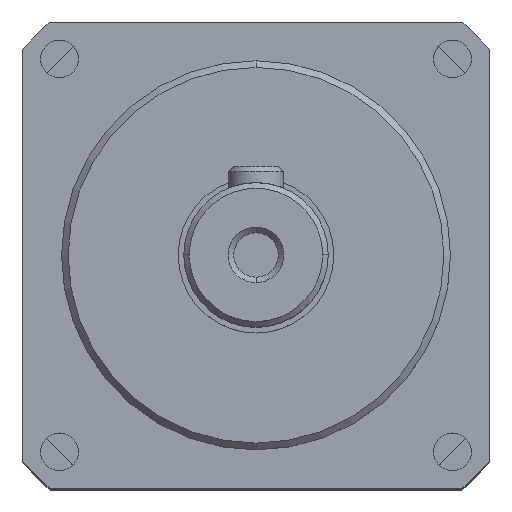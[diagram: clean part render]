
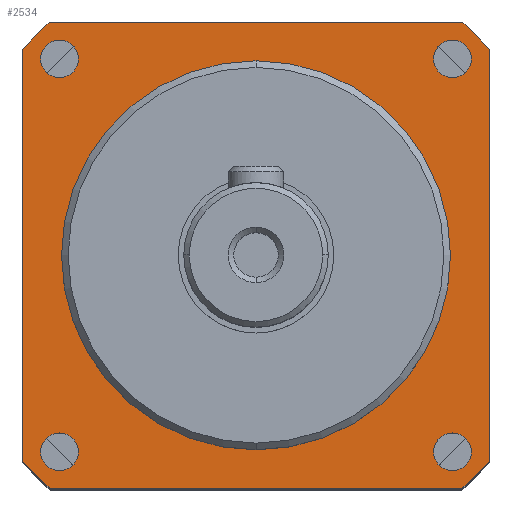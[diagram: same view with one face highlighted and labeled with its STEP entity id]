
A CAD part, top view. The second image highlights one B-rep face of the part: STEP entity #2534.
In plain terms, the highlighted planar face has unit normal (0, 0, 1).
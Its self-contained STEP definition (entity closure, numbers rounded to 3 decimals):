
#1683=CARTESIAN_POINT('',(0.,0.,5.5));
#1684=DIRECTION('',(0.,0.,-1.));
#1685=DIRECTION('',(0.,-1.,0.));
#1686=AXIS2_PLACEMENT_3D('',#1683,#1684,#1685);
#1688=CARTESIAN_POINT('',(0.,0.,5.5));
#1689=DIRECTION('',(0.,0.,-1.));
#1690=DIRECTION('',(0.,1.,0.));
#1691=AXIS2_PLACEMENT_3D('',#1688,#1689,#1690);
#1693=CARTESIAN_POINT('',(-17.678,17.678,5.5));
#1694=DIRECTION('',(0.,0.,1.));
#1695=DIRECTION('',(0.,1.,0.));
#1696=AXIS2_PLACEMENT_3D('',#1693,#1694,#1695);
#1698=CARTESIAN_POINT('',(-17.678,17.678,5.5));
#1699=DIRECTION('',(0.,0.,1.));
#1700=DIRECTION('',(0.,-1.,0.));
#1701=AXIS2_PLACEMENT_3D('',#1698,#1699,#1700);
#1703=CARTESIAN_POINT('',(-17.678,-17.678,5.5));
#1704=DIRECTION('',(0.,0.,1.));
#1705=DIRECTION('',(0.,1.,0.));
#1706=AXIS2_PLACEMENT_3D('',#1703,#1704,#1705);
#1708=CARTESIAN_POINT('',(-17.678,-17.678,5.5));
#1709=DIRECTION('',(0.,0.,1.));
#1710=DIRECTION('',(0.,-1.,0.));
#1711=AXIS2_PLACEMENT_3D('',#1708,#1709,#1710);
#1713=CARTESIAN_POINT('',(17.678,-17.678,5.5));
#1714=DIRECTION('',(0.,0.,1.));
#1715=DIRECTION('',(0.,1.,0.));
#1716=AXIS2_PLACEMENT_3D('',#1713,#1714,#1715);
#1718=CARTESIAN_POINT('',(17.678,-17.678,5.5));
#1719=DIRECTION('',(0.,0.,1.));
#1720=DIRECTION('',(0.,-1.,0.));
#1721=AXIS2_PLACEMENT_3D('',#1718,#1719,#1720);
#1723=CARTESIAN_POINT('',(17.678,17.678,5.5));
#1724=DIRECTION('',(0.,0.,1.));
#1725=DIRECTION('',(0.,1.,0.));
#1726=AXIS2_PLACEMENT_3D('',#1723,#1724,#1725);
#1728=CARTESIAN_POINT('',(17.678,17.678,5.5));
#1729=DIRECTION('',(0.,0.,1.));
#1730=DIRECTION('',(0.,-1.,0.));
#1731=AXIS2_PLACEMENT_3D('',#1728,#1729,#1730);
#1733=CARTESIAN_POINT('',(0.,0.,5.5));
#1734=DIRECTION('',(0.,0.,1.));
#1735=DIRECTION('',(0.661,-0.75,0.));
#1736=AXIS2_PLACEMENT_3D('',#1733,#1734,#1735);
#1738=DIRECTION('',(1.,0.,0.));
#1739=VECTOR('',#1738,37.041);
#1740=CARTESIAN_POINT('',(-18.52,-21.,5.5));
#1741=LINE('',#1740,#1739);
#1742=CARTESIAN_POINT('',(0.,0.,5.5));
#1743=DIRECTION('',(0.,0.,1.));
#1744=DIRECTION('',(-0.75,-0.661,0.));
#1745=AXIS2_PLACEMENT_3D('',#1742,#1743,#1744);
#1747=DIRECTION('',(0.,-1.,0.));
#1748=VECTOR('',#1747,37.041);
#1749=CARTESIAN_POINT('',(-21.,18.52,5.5));
#1750=LINE('',#1749,#1748);
#1751=CARTESIAN_POINT('',(0.,0.,5.5));
#1752=DIRECTION('',(0.,0.,1.));
#1753=DIRECTION('',(-0.661,0.75,0.));
#1754=AXIS2_PLACEMENT_3D('',#1751,#1752,#1753);
#1756=DIRECTION('',(-1.,0.,0.));
#1757=VECTOR('',#1756,37.041);
#1758=CARTESIAN_POINT('',(18.52,21.,5.5));
#1759=LINE('',#1758,#1757);
#1760=CARTESIAN_POINT('',(0.,0.,5.5));
#1761=DIRECTION('',(0.,0.,1.));
#1762=DIRECTION('',(0.75,0.661,0.));
#1763=AXIS2_PLACEMENT_3D('',#1760,#1761,#1762);
#1765=DIRECTION('',(0.,1.,0.));
#1766=VECTOR('',#1765,37.041);
#1767=CARTESIAN_POINT('',(21.,-18.52,5.5));
#1768=LINE('',#1767,#1766);
#2309=CARTESIAN_POINT('',(0.,-17.5,5.5));
#2310=CARTESIAN_POINT('',(0.,17.5,5.5));
#2311=VERTEX_POINT('',#2309);
#2312=VERTEX_POINT('',#2310);
#2313=CARTESIAN_POINT('',(-17.678,19.378,5.5));
#2314=CARTESIAN_POINT('',(-17.678,15.978,5.5));
#2315=VERTEX_POINT('',#2313);
#2316=VERTEX_POINT('',#2314);
#2317=CARTESIAN_POINT('',(-17.678,-15.978,5.5));
#2318=CARTESIAN_POINT('',(-17.678,-19.378,5.5));
#2319=VERTEX_POINT('',#2317);
#2320=VERTEX_POINT('',#2318);
#2321=CARTESIAN_POINT('',(17.678,-15.978,5.5));
#2322=CARTESIAN_POINT('',(17.678,-19.378,5.5));
#2323=VERTEX_POINT('',#2321);
#2324=VERTEX_POINT('',#2322);
#2325=CARTESIAN_POINT('',(17.678,19.378,5.5));
#2326=CARTESIAN_POINT('',(17.678,15.978,5.5));
#2327=VERTEX_POINT('',#2325);
#2328=VERTEX_POINT('',#2326);
#2449=CARTESIAN_POINT('',(18.52,-21.,5.5));
#2450=CARTESIAN_POINT('',(21.,-18.52,5.5));
#2451=VERTEX_POINT('',#2449);
#2452=VERTEX_POINT('',#2450);
#2453=CARTESIAN_POINT('',(21.,18.52,5.5));
#2454=CARTESIAN_POINT('',(18.52,21.,5.5));
#2455=VERTEX_POINT('',#2453);
#2456=VERTEX_POINT('',#2454);
#2457=CARTESIAN_POINT('',(-18.52,21.,5.5));
#2458=CARTESIAN_POINT('',(-21.,18.52,5.5));
#2459=VERTEX_POINT('',#2457);
#2460=VERTEX_POINT('',#2458);
#2461=CARTESIAN_POINT('',(-21.,-18.52,5.5));
#2462=CARTESIAN_POINT('',(-18.52,-21.,5.5));
#2463=VERTEX_POINT('',#2461);
#2464=VERTEX_POINT('',#2462);
#2481=CARTESIAN_POINT('',(0.,0.,5.5));
#2482=DIRECTION('',(0.,0.,1.));
#2483=DIRECTION('',(1.,0.,0.));
#2484=AXIS2_PLACEMENT_3D('',#2481,#2482,#2483);
#2485=PLANE('',#2484);
#2487=ORIENTED_EDGE('',*,*,#2486,.F.);
#2489=ORIENTED_EDGE('',*,*,#2488,.F.);
#2491=ORIENTED_EDGE('',*,*,#2490,.F.);
#2493=ORIENTED_EDGE('',*,*,#2492,.F.);
#2495=ORIENTED_EDGE('',*,*,#2494,.F.);
#2497=ORIENTED_EDGE('',*,*,#2496,.F.);
#2499=ORIENTED_EDGE('',*,*,#2498,.F.);
#2501=ORIENTED_EDGE('',*,*,#2500,.F.);
#2502=EDGE_LOOP('',(#2487,#2489,#2491,#2493,#2495,#2497,#2499,#2501));
#2503=FACE_OUTER_BOUND('',#2502,.F.);
#2505=ORIENTED_EDGE('',*,*,#2504,.T.);
#2507=ORIENTED_EDGE('',*,*,#2506,.T.);
#2508=EDGE_LOOP('',(#2505,#2507));
#2509=FACE_BOUND('',#2508,.F.);
#2511=ORIENTED_EDGE('',*,*,#2510,.T.);
#2513=ORIENTED_EDGE('',*,*,#2512,.T.);
#2514=EDGE_LOOP('',(#2511,#2513));
#2515=FACE_BOUND('',#2514,.F.);
#2517=ORIENTED_EDGE('',*,*,#2516,.T.);
#2519=ORIENTED_EDGE('',*,*,#2518,.T.);
#2520=EDGE_LOOP('',(#2517,#2519));
#2521=FACE_BOUND('',#2520,.F.);
#2523=ORIENTED_EDGE('',*,*,#2522,.T.);
#2525=ORIENTED_EDGE('',*,*,#2524,.T.);
#2526=EDGE_LOOP('',(#2523,#2525));
#2527=FACE_BOUND('',#2526,.F.);
#2529=ORIENTED_EDGE('',*,*,#2528,.F.);
#2531=ORIENTED_EDGE('',*,*,#2530,.F.);
#2532=EDGE_LOOP('',(#2529,#2531));
#2533=FACE_BOUND('',#2532,.F.);
#1687=CIRCLE('',#1686,17.5);
#1692=CIRCLE('',#1691,17.5);
#1697=CIRCLE('',#1696,1.7);
#1702=CIRCLE('',#1701,1.7);
#1707=CIRCLE('',#1706,1.7);
#1712=CIRCLE('',#1711,1.7);
#1717=CIRCLE('',#1716,1.7);
#1722=CIRCLE('',#1721,1.7);
#1727=CIRCLE('',#1726,1.7);
#1732=CIRCLE('',#1731,1.7);
#1737=CIRCLE('',#1736,28.);
#1746=CIRCLE('',#1745,28.);
#1755=CIRCLE('',#1754,28.);
#1764=CIRCLE('',#1763,28.);
#2486=EDGE_CURVE('',#2451,#2452,#1737,.T.);
#2488=EDGE_CURVE('',#2464,#2451,#1741,.T.);
#2490=EDGE_CURVE('',#2463,#2464,#1746,.T.);
#2492=EDGE_CURVE('',#2460,#2463,#1750,.T.);
#2494=EDGE_CURVE('',#2459,#2460,#1755,.T.);
#2496=EDGE_CURVE('',#2456,#2459,#1759,.T.);
#2498=EDGE_CURVE('',#2455,#2456,#1764,.T.);
#2500=EDGE_CURVE('',#2452,#2455,#1768,.T.);
#2504=EDGE_CURVE('',#2315,#2316,#1697,.T.);
#2506=EDGE_CURVE('',#2316,#2315,#1702,.T.);
#2510=EDGE_CURVE('',#2319,#2320,#1707,.T.);
#2512=EDGE_CURVE('',#2320,#2319,#1712,.T.);
#2516=EDGE_CURVE('',#2323,#2324,#1717,.T.);
#2518=EDGE_CURVE('',#2324,#2323,#1722,.T.);
#2522=EDGE_CURVE('',#2327,#2328,#1727,.T.);
#2524=EDGE_CURVE('',#2328,#2327,#1732,.T.);
#2528=EDGE_CURVE('',#2311,#2312,#1687,.T.);
#2530=EDGE_CURVE('',#2312,#2311,#1692,.T.);
#2534=ADVANCED_FACE('',(#2503,#2509,#2515,#2521,#2527,#2533),#2485,.T.);
